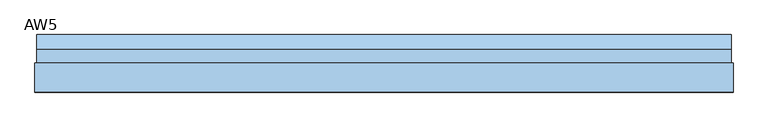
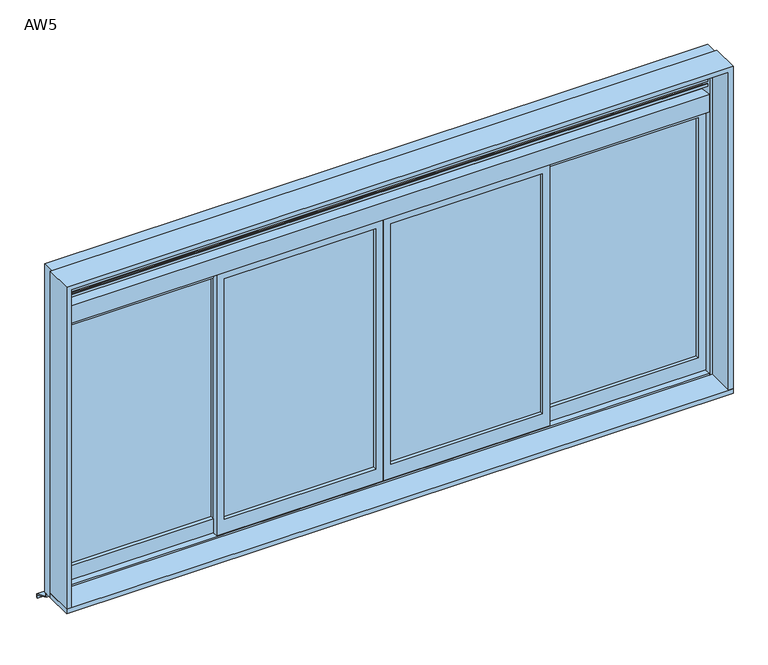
"""IFC4 building model written with IfcOpenShell, lengths in millimetres: window geometry, 営_連段窓_引違い/ガラリ : AW5."""

from ifc_helpers import new_model, si_unit, frame, origin, place, context, project, spatial, polyline, outline, extrude, source, transform, mapped, element, save


def aw5_68b6661f(model_context):
    return source(origin(), model_context, "Body", "SweptSolid", [
        extrude(outline(polyline([(20.0, 2823.2493654), (20.0, 2805.0), (15.0, 2805.0), (15.0, 2820.0), (-30.0, 2840.0), (-30.0, 2855.0), (-25.0, 2855.0), (-25.0, 2843.2493654), (20.0, 2823.2493654)])), frame((-1750.0, 0.0, 0.0), z_axis=(1.0, 0.0, 0.0), x_axis=(0.0, 1.0, 0.0)), (0.0, 0.0, 1.0), 3500.0),
        extrude(outline(polyline([(20.0, 2793.2493654), (20.0, 2775.0), (15.0, 2775.0), (15.0, 2790.0), (-30.0, 2810.0), (-30.0, 2825.0), (-25.0, 2825.0), (-25.0, 2813.2493654), (20.0, 2793.2493654)])), frame((-1750.0, 0.0, 0.0), z_axis=(1.0, 0.0, 0.0), x_axis=(0.0, 1.0, 0.0)), (0.0, 0.0, 1.0), 3500.0),
        extrude(outline(polyline([(20.0, 2763.2493654), (20.0, 2745.0), (15.0, 2745.0), (15.0, 2760.0), (-30.0, 2780.0), (-30.0, 2795.0), (-25.0, 2795.0), (-25.0, 2783.2493654), (20.0, 2763.2493654)])), frame((-1750.0, 0.0, 0.0), z_axis=(1.0, 0.0, 0.0), x_axis=(0.0, 1.0, 0.0)), (0.0, 0.0, 1.0), 3500.0),
        extrude(outline(polyline([(20.0, 2733.2493654), (20.0, 2715.0), (15.0, 2715.0), (15.0, 2730.0), (-30.0, 2750.0), (-30.0, 2765.0), (-25.0, 2765.0), (-25.0, 2753.2493654), (20.0, 2733.2493654)])), frame((-1750.0, 0.0, 0.0), z_axis=(1.0, 0.0, 0.0), x_axis=(0.0, 1.0, 0.0)), (0.0, 0.0, 1.0), 3500.0),
        extrude(outline(polyline([(20.0, 2853.2493654), (20.0, 2835.0), (15.0, 2835.0), (15.0, 2850.0), (-30.0, 2870.0), (-30.0, 2885.0), (-25.0, 2885.0), (-25.0, 2873.2493654), (20.0, 2853.2493654)])), frame((-1750.0, 0.0, 0.0), z_axis=(1.0, 0.0, 0.0), x_axis=(0.0, 1.0, 0.0)), (0.0, 0.0, 1.0), 3500.0),
        extrude(outline(polyline([(20.0, 2703.2493654), (20.0, 2685.0), (15.0, 2685.0), (15.0, 2700.0), (-30.0, 2720.0), (-30.0, 2735.0), (-25.0, 2735.0), (-25.0, 2723.2493654), (20.0, 2703.2493654)])), frame((-1750.0, 0.0, 0.0), z_axis=(1.0, 0.0, 0.0), x_axis=(0.0, 1.0, 0.0)), (0.0, 0.0, 1.0), 3500.0),
        extrude(outline(polyline([(1710.0, 10.0), (895.0, 10.0), (895.0, 15.0), (1710.0, 15.0), (1710.0, 10.0)])), frame((0.0, 0.0, 1180.0), z_axis=(0.0, 0.0, 1.0), x_axis=(1.0, 0.0, 0.0)), (0.0, 0.0, 1.0), 1365.0),
        extrude(outline(polyline([(1100.0, 1750.0), (2585.0, 1750.0), (2585.0, 855.0), (1100.0, 855.0), (1100.0, 1750.0)]), holes=[polyline([(1180.0, 1710.0), (1180.0, 895.0), (2545.0, 895.0), (2545.0, 1710.0), (1180.0, 1710.0)])]), frame((0.0, -10.0, 0.0), z_axis=(0.0, 1.0, 0.0), x_axis=(0.0, 0.0, 1.0)), (0.0, 0.0, 1.0), 30.0),
        extrude(outline(polyline([(855.0, -20.0), (40.0, -20.0), (40.0, -15.0), (855.0, -15.0), (855.0, -20.0)])), frame((0.0, 0.0, 1180.0), z_axis=(0.0, 0.0, 1.0), x_axis=(1.0, 0.0, 0.0)), (0.0, 0.0, 1.0), 1365.0),
        extrude(outline(polyline([(1100.0, 895.0), (2585.0, 895.0), (2585.0, 0.0), (1100.0, 0.0), (1100.0, 895.0)]), holes=[polyline([(1180.0, 855.0), (1180.0, 40.0), (2545.0, 40.0), (2545.0, 855.0), (1180.0, 855.0)])]), frame((0.0, -40.0, 0.0), z_axis=(0.0, 1.0, 0.0), x_axis=(0.0, 0.0, 1.0)), (0.0, 0.0, 1.0), 30.0),
        extrude(outline(polyline([(-40.0, -20.0), (-855.0, -20.0), (-855.0, -15.0), (-40.0, -15.0), (-40.0, -20.0)])), frame((0.0, 0.0, 1180.0), z_axis=(0.0, 0.0, 1.0), x_axis=(1.0, 0.0, 0.0)), (0.0, 0.0, 1.0), 1365.0),
        extrude(outline(polyline([(-895.0, 10.0), (-1710.0, 10.0), (-1710.0, 15.0), (-895.0, 15.0), (-895.0, 10.0)])), frame((0.0, 0.0, 1180.0), z_axis=(0.0, 0.0, 1.0), x_axis=(1.0, 0.0, 0.0)), (0.0, 0.0, 1.0), 1365.0),
        extrude(outline(polyline([(1100.0, 0.0), (2585.0, 0.0), (2585.0, -895.0), (1100.0, -895.0), (1100.0, 0.0)]), holes=[polyline([(1180.0, -40.0), (1180.0, -855.0), (2545.0, -855.0), (2545.0, -40.0), (1180.0, -40.0)])]), frame((0.0, -40.0, 0.0), z_axis=(0.0, 1.0, 0.0), x_axis=(0.0, 0.0, 1.0)), (0.0, 0.0, 1.0), 30.0),
        extrude(outline(polyline([(1100.0, -855.0), (2585.0, -855.0), (2585.0, -1750.0), (1100.0, -1750.0), (1100.0, -855.0)]), holes=[polyline([(1180.0, -895.0), (1180.0, -1710.0), (2545.0, -1710.0), (2545.0, -895.0), (1180.0, -895.0)])]), frame((0.0, -10.0, 0.0), z_axis=(0.0, 1.0, 0.0), x_axis=(0.0, 0.0, 1.0)), (0.0, 0.0, 1.0), 30.0),
        extrude(outline(polyline([(1790.0, -195.0), (-1790.0, -195.0), (-1790.0, -45.0), (1790.0, -45.0), (1790.0, -195.0)])), frame((0.0, 0.0, 1065.0), z_axis=(0.0, 0.0, 1.0), x_axis=(1.0, 0.0, 0.0)), (0.0, 0.0, 1.0), 25.0),
        extrude(outline(polyline([(15.0, 1035.0), (100.0, 995.0), (100.0, 975.0), (95.0014518, 975.0), (95.0014518, 991.8262891), (10.0, 1031.8269723), (10.0, 1050.0), (15.0, 1050.0), (15.0, 1035.0)])), frame((-1780.0, 0.0, 0.0), z_axis=(1.0, 0.0, 0.0), x_axis=(0.0, 1.0, 0.0)), (0.0, 0.0, 1.0), 3560.0),
        extrude(outline(polyline([(1065.0, -1790.0), (1065.0, -1765.0), (2895.0, -1765.0), (2895.0, 1765.0), (1065.0, 1765.0), (1065.0, 1790.0), (2920.0, 1790.0), (2920.0, -1790.0), (1065.0, -1790.0)])), frame((0.0, -195.0, 0.0), z_axis=(0.0, 1.0, 0.0), x_axis=(0.0, 0.0, 1.0)), (0.0, 0.0, 1.0), 150.0),
        extrude(outline(polyline([(1050.0, -1780.0), (1050.0, -1750.0), (2885.0, -1750.0), (2885.0, 1750.0), (1050.0, 1750.0), (1050.0, 1780.0), (2915.0, 1780.0), (2915.0, -1780.0), (1050.0, -1780.0)])), frame((0.0, -45.0, 0.0), z_axis=(0.0, 1.0, 0.0), x_axis=(0.0, 0.0, 1.0)), (0.0, 0.0, 1.0), 70.0),
        extrude(outline(polyline([(-45.0, 1050.0), (-45.0, 1100.0), (25.0, 1090.6666667), (25.0, 1050.0), (-45.0, 1050.0)])), frame((-1750.0, 0.0, 0.0), z_axis=(1.0, 0.0, 0.0), x_axis=(0.0, 1.0, 0.0)), (0.0, 0.0, 1.0), 3500.0),
        extrude(outline(polyline([(25.0, 2585.0), (-45.0, 2585.0), (-45.0, 2685.0), (25.0, 2675.0), (25.0, 2585.0)])), frame((-1750.0, 0.0, 0.0), z_axis=(1.0, 0.0, 0.0), x_axis=(0.0, 1.0, 0.0)), (0.0, 0.0, 1.0), 3500.0),
    ])


if __name__ == "__main__":
    model = new_model("IFC4")
    model_context = context("Model", 3, world=origin())
    ifc_project = project(units=[si_unit("LENGTHUNIT", "METRE", prefix="MILLI")], contexts=[model_context])
    site = spatial("IfcSite", under=ifc_project)
    building = spatial("IfcBuilding", under=site)
    placement = place(None, origin())
    aw5_shape = aw5_68b6661f(model_context)
    element("IfcWindow", 1, ObjectType="営_連段窓_引違い/ガラリ : AW5", at=placement, inside=building, context=model_context, shape_type="MappedRepresentation", body=[
        mapped(aw5_shape, transform((0.0, 0.0, 0.0), x_axis=(1.0, 0.0, 0.0), y_axis=(0.0, 1.0, 0.0), z_axis=(0.0, 0.0, 1.0))),
    ])
    save(model, "model.ifc")
